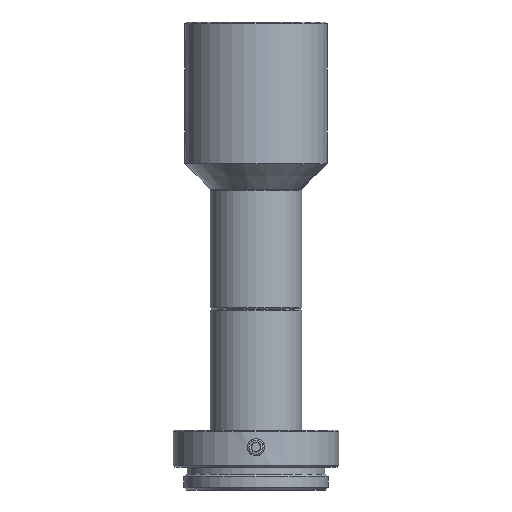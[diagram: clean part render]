
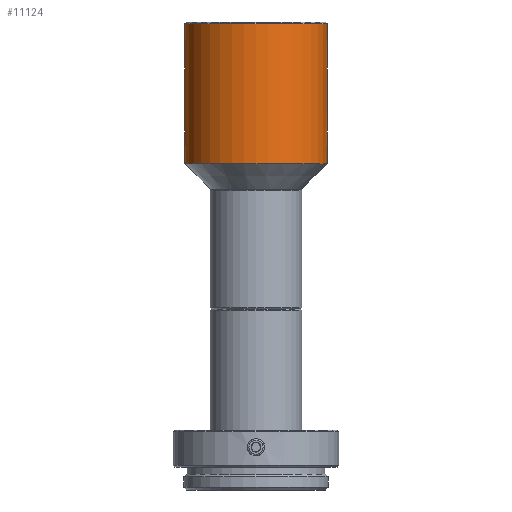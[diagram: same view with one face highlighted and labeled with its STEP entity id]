
A CAD part, front view. The second image highlights one B-rep face of the part: STEP entity #11124.
In plain terms, the highlighted cylindrical face has radius 12.5 mm (diameter 25 mm), a partial arc.
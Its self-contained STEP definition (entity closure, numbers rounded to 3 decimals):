
#88 = EDGE_CURVE ( 'NONE', #13262, #4396, #5424, .T. ) ;
#414 = CIRCLE ( 'NONE', #6872, 12.5 ) ;
#749 = CARTESIAN_POINT ( 'NONE',  ( 12.45, -1.114, 85.536 ) ) ;
#792 = EDGE_CURVE ( 'NONE', #6782, #17542, #7691, .T. ) ;
#1006 = LINE ( 'NONE', #24027, #21551 ) ;
#1384 = CIRCLE ( 'NONE', #21994, 12.5 ) ;
#1467 = CARTESIAN_POINT ( 'NONE',  ( -12.45, -1.114, 80.536 ) ) ;
#1552 = CARTESIAN_POINT ( 'NONE',  ( 12.5, 0., 80.536 ) ) ;
#1857 = EDGE_LOOP ( 'NONE', ( #8903, #18265, #17887, #6365, #7077, #6987, #6851, #19654, #16001, #24252, #21386, #12145 ) ) ;
#1990 = DIRECTION ( 'NONE',  ( 1., 0., 0. ) ) ;
#2016 = DIRECTION ( 'NONE',  ( 0., 0., 1. ) ) ;
#2603 = DIRECTION ( 'NONE',  ( -0.996, -0.089, 0. ) ) ;
#3519 = VECTOR ( 'NONE', #16179, 1000. ) ;
#3671 = CARTESIAN_POINT ( 'NONE',  ( -12.5, 0., 95.536 ) ) ;
#3848 = DIRECTION ( 'NONE',  ( 0., 0., 1. ) ) ;
#3973 = LINE ( 'NONE', #1467, #16346 ) ;
#4202 = CARTESIAN_POINT ( 'NONE',  ( -12.5, 0., 95.536 ) ) ;
#4396 = VERTEX_POINT ( 'NONE', #23416 ) ;
#4590 = CARTESIAN_POINT ( 'NONE',  ( -12.5, 0., 80.536 ) ) ;
#4915 = DIRECTION ( 'NONE',  ( 0., 0., -1. ) ) ;
#5389 = LINE ( 'NONE', #15241, #19124 ) ;
#5424 = LINE ( 'NONE', #3671, #19533 ) ;
#5693 = CARTESIAN_POINT ( 'NONE',  ( 0., 0., 85.536 ) ) ;
#6365 = ORIENTED_EDGE ( 'NONE', *, *, #14366, .F. ) ;
#6444 = DIRECTION ( 'NONE',  ( 0., 0., 1. ) ) ;
#6782 = VERTEX_POINT ( 'NONE', #23069 ) ;
#6847 = VERTEX_POINT ( 'NONE', #1552 ) ;
#6851 = ORIENTED_EDGE ( 'NONE', *, *, #14989, .T. ) ;
#6872 = AXIS2_PLACEMENT_3D ( 'NONE', #19853, #6444, #24013 ) ;
#6987 = ORIENTED_EDGE ( 'NONE', *, *, #13582, .T. ) ;
#7077 = ORIENTED_EDGE ( 'NONE', *, *, #17220, .F. ) ;
#7095 = EDGE_CURVE ( 'NONE', #13262, #8533, #15531, .T. ) ;
#7499 = EDGE_CURVE ( 'NONE', #13359, #8533, #3973, .T. ) ;
#7515 = CIRCLE ( 'NONE', #10730, 12.5 ) ;
#7548 = CARTESIAN_POINT ( 'NONE',  ( 12.45, -1.114, 85.536 ) ) ;
#7549 = VERTEX_POINT ( 'NONE', #9606 ) ;
#7691 = LINE ( 'NONE', #4202, #15126 ) ;
#7769 = AXIS2_PLACEMENT_3D ( 'NONE', #21975, #4915, #18446 ) ;
#7834 = AXIS2_PLACEMENT_3D ( 'NONE', #5693, #13395, #21123 ) ;
#8108 = AXIS2_PLACEMENT_3D ( 'NONE', #10003, #19796, #2603 ) ;
#8508 = DIRECTION ( 'NONE',  ( 1., 0., 0. ) ) ;
#8533 = VERTEX_POINT ( 'NONE', #12761 ) ;
#8676 = EDGE_CURVE ( 'NONE', #6782, #7549, #1384, .T. ) ;
#8903 = ORIENTED_EDGE ( 'NONE', *, *, #792, .F. ) ;
#9606 = CARTESIAN_POINT ( 'NONE',  ( 12.5, 0., 70.736 ) ) ;
#9668 = EDGE_CURVE ( 'NONE', #17542, #13359, #7515, .T. ) ;
#9940 = CARTESIAN_POINT ( 'NONE',  ( 0., 0., 70.736 ) ) ;
#10003 = CARTESIAN_POINT ( 'NONE',  ( 0., 0., 80.536 ) ) ;
#10333 = LINE ( 'NONE', #749, #3519 ) ;
#10600 = DIRECTION ( 'NONE',  ( 0., 0., 1. ) ) ;
#10730 = AXIS2_PLACEMENT_3D ( 'NONE', #16700, #10600, #14653 ) ;
#11124 = ADVANCED_FACE ( 'NONE', ( #23123 ), #11582, .T. ) ;
#11218 = AXIS2_PLACEMENT_3D ( 'NONE', #13244, #19326, #1990 ) ;
#11582 = CYLINDRICAL_SURFACE ( 'NONE', #11218, 12.5 ) ;
#12145 = ORIENTED_EDGE ( 'NONE', *, *, #9668, .F. ) ;
#12760 = CARTESIAN_POINT ( 'NONE',  ( 12.5, 0., 85.536 ) ) ;
#12761 = CARTESIAN_POINT ( 'NONE',  ( -12.45, -1.114, 85.536 ) ) ;
#13244 = CARTESIAN_POINT ( 'NONE',  ( 0., 0., 95.536 ) ) ;
#13262 = VERTEX_POINT ( 'NONE', #18372 ) ;
#13359 = VERTEX_POINT ( 'NONE', #20389 ) ;
#13395 = DIRECTION ( 'NONE',  ( 0., 0., 1. ) ) ;
#13582 = EDGE_CURVE ( 'NONE', #22952, #21111, #414, .T. ) ;
#13750 = CARTESIAN_POINT ( 'NONE',  ( 12.5, 0., 95.236 ) ) ;
#14366 = EDGE_CURVE ( 'NONE', #19498, #6847, #22710, .T. ) ;
#14653 = DIRECTION ( 'NONE',  ( -0.996, -0.089, 0. ) ) ;
#14989 = EDGE_CURVE ( 'NONE', #21111, #22047, #5389, .T. ) ;
#15126 = VECTOR ( 'NONE', #15429, 1000. ) ;
#15241 = CARTESIAN_POINT ( 'NONE',  ( 12.5, 0., 95.536 ) ) ;
#15429 = DIRECTION ( 'NONE',  ( 0., 0., 1. ) ) ;
#15531 = CIRCLE ( 'NONE', #7834, 12.5 ) ;
#16001 = ORIENTED_EDGE ( 'NONE', *, *, #88, .F. ) ;
#16179 = DIRECTION ( 'NONE',  ( 0., 0., -1. ) ) ;
#16189 = CARTESIAN_POINT ( 'NONE',  ( 12.45, -1.114, 80.536 ) ) ;
#16307 = CIRCLE ( 'NONE', #7769, 12.5 ) ;
#16346 = VECTOR ( 'NONE', #3848, 1000. ) ;
#16700 = CARTESIAN_POINT ( 'NONE',  ( 0., 0., 80.536 ) ) ;
#17033 = DIRECTION ( 'NONE',  ( 0., 0., 1. ) ) ;
#17220 = EDGE_CURVE ( 'NONE', #22952, #19498, #10333, .T. ) ;
#17542 = VERTEX_POINT ( 'NONE', #4590 ) ;
#17887 = ORIENTED_EDGE ( 'NONE', *, *, #24828, .T. ) ;
#18265 = ORIENTED_EDGE ( 'NONE', *, *, #8676, .T. ) ;
#18372 = CARTESIAN_POINT ( 'NONE',  ( -12.5, 0., 85.536 ) ) ;
#18446 = DIRECTION ( 'NONE',  ( -1., 0., 0. ) ) ;
#19124 = VECTOR ( 'NONE', #17033, 1000. ) ;
#19326 = DIRECTION ( 'NONE',  ( 0., 0., 1. ) ) ;
#19498 = VERTEX_POINT ( 'NONE', #16189 ) ;
#19533 = VECTOR ( 'NONE', #24641, 1000. ) ;
#19654 = ORIENTED_EDGE ( 'NONE', *, *, #23830, .T. ) ;
#19796 = DIRECTION ( 'NONE',  ( 0., 0., 1. ) ) ;
#19853 = CARTESIAN_POINT ( 'NONE',  ( 0., 0., 85.536 ) ) ;
#20389 = CARTESIAN_POINT ( 'NONE',  ( -12.45, -1.114, 80.536 ) ) ;
#21111 = VERTEX_POINT ( 'NONE', #12760 ) ;
#21123 = DIRECTION ( 'NONE',  ( -0.996, -0.089, 0. ) ) ;
#21386 = ORIENTED_EDGE ( 'NONE', *, *, #7499, .F. ) ;
#21551 = VECTOR ( 'NONE', #21749, 1000. ) ;
#21749 = DIRECTION ( 'NONE',  ( 0., 0., 1. ) ) ;
#21975 = CARTESIAN_POINT ( 'NONE',  ( 0., 0., 95.236 ) ) ;
#21994 = AXIS2_PLACEMENT_3D ( 'NONE', #9940, #2016, #8508 ) ;
#22047 = VERTEX_POINT ( 'NONE', #13750 ) ;
#22710 = CIRCLE ( 'NONE', #8108, 12.5 ) ;
#22952 = VERTEX_POINT ( 'NONE', #7548 ) ;
#23069 = CARTESIAN_POINT ( 'NONE',  ( -12.5, 0., 70.736 ) ) ;
#23123 = FACE_OUTER_BOUND ( 'NONE', #1857, .T. ) ;
#23416 = CARTESIAN_POINT ( 'NONE',  ( -12.5, 0., 95.236 ) ) ;
#23830 = EDGE_CURVE ( 'NONE', #22047, #4396, #16307, .T. ) ;
#24013 = DIRECTION ( 'NONE',  ( -0.996, -0.089, 0. ) ) ;
#24027 = CARTESIAN_POINT ( 'NONE',  ( 12.5, 0., 95.536 ) ) ;
#24252 = ORIENTED_EDGE ( 'NONE', *, *, #7095, .T. ) ;
#24641 = DIRECTION ( 'NONE',  ( 0., 0., 1. ) ) ;
#24828 = EDGE_CURVE ( 'NONE', #7549, #6847, #1006, .T. ) ;
